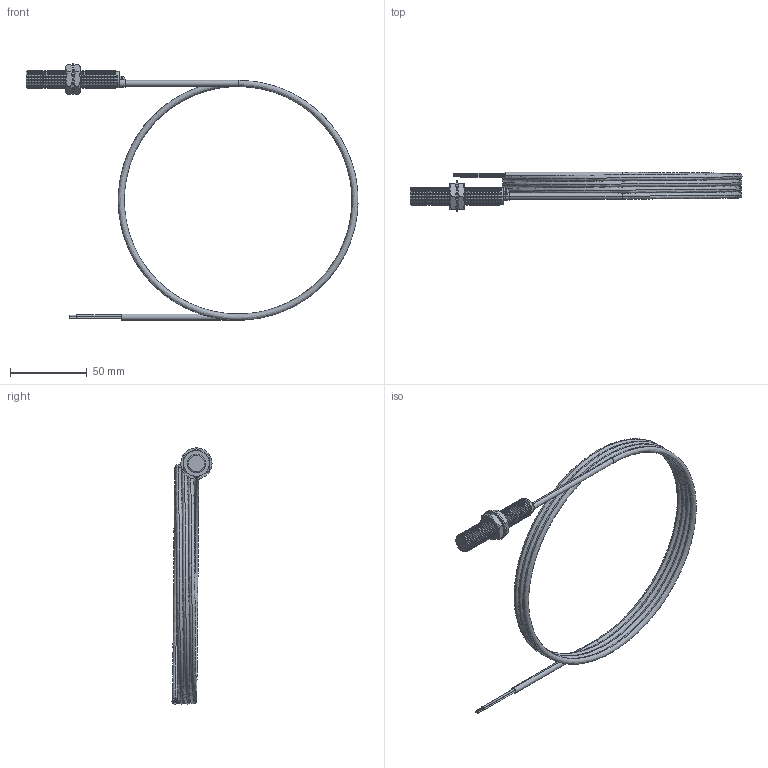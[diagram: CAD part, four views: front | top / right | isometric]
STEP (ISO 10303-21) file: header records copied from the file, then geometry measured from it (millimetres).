
FILE_DESCRIPTION (( 'STEP AP203' ), '1' );
FILE_NAME ('90-29417-055.STEP', '2015-11-12T14:25:13', ( 'Sam' ), ( 'Spade' ), 'SwSTEP 2.0', 'SolidWorks 2002296', '' );
FILE_SCHEMA (( 'CONFIG_CONTROL_DESIGN' ));
Length unit declared in the file: inch
Products named in the file (17): 90-29417-055; Imported16; Imported20; Imported19; Imported18; Imported17; Imported24; Imported23; Imported22; Imported21; Imported26; Imported25; Imported30; Imported29; Imported28; Imported27; Imported31
Assembly tree (16 placements, depth 2):
  90-29417-055
    Imported29
    Imported19
    Imported26
    Imported27
    Imported21
    Imported16
    Imported25
    Imported20
    Imported24
    Imported23
    Imported30
    Imported18
    Imported22
    Imported28
    Imported31
    Imported17
Bounding box: 216.46 x 26.1 x 167.13 mm (x, y, z)
Volume: 30409.8 mm3; surface area: 29488.4 mm2
Topology: 16 solids, 16 shells, 545 faces, 1122 edges, 610 vertices
Faces by surface type: cone 299, cylinder 160, plane 81, bspline 5
Entity records: 16899 total; most frequent: CARTESIAN_POINT 3443, DIRECTION 2691, ORIENTED_EDGE 2240, EDGE_CURVE 1120, AXIS2_PLACEMENT_3D 1068, VERTEX_POINT 610, LINE 555, VECTOR 555
